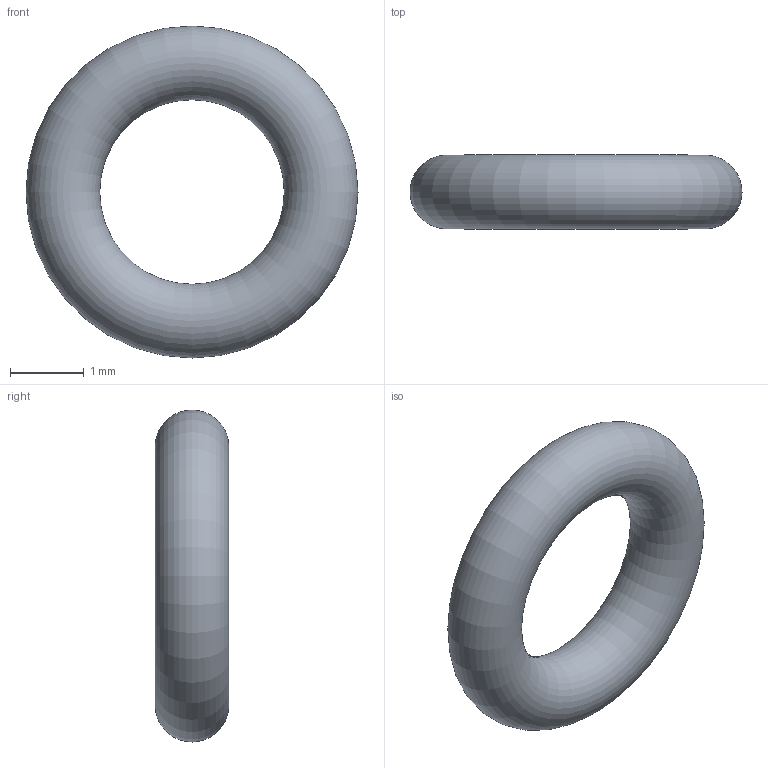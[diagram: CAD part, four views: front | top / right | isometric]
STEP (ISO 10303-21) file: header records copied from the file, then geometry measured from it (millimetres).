
FILE_DESCRIPTION( ( 'STEP AP203' ), '1' );
FILE_NAME( 'C:/Temp/Ganter_Step_05_03_2020/data/3_5/or638/O-Ring OR638-2.50-1.00-70.stp', '2020-03-12T13:44:14', ( 'License CC BY-ND 4.0' ), ( 'CADENAS' ), ' ', 'PARTsolutions', ' ' );
FILE_SCHEMA( ( 'CONFIG_CONTROL_DESIGN' ) );
Length unit declared in the file: millimetre
Products named in the file (1): _O-Ring OR638-2.50-1.00-70
Bounding box: 4.5 x 1 x 4.5 mm (x, y, z)
Volume: 8.6 mm3; surface area: 34.5 mm2
Topology: 1 solids, 1 shells, 1 faces, 2 edges, 1 vertices
Faces by surface type: torus 1
Entity records: 62 total; most frequent: CC_DESIGN_PERSON_AND_ORGANIZATION_ASSIGNMENT 5, PERSON_AND_ORGANIZATION_ROLE 4, DIRECTION 4, CARTESIAN_POINT 3, DATE_TIME_ROLE 2, CC_DESIGN_DATE_AND_TIME_ASSIGNMENT 2, AXIS2_PLACEMENT_3D 2, DIMENSIONAL_EXPONENTS 2
